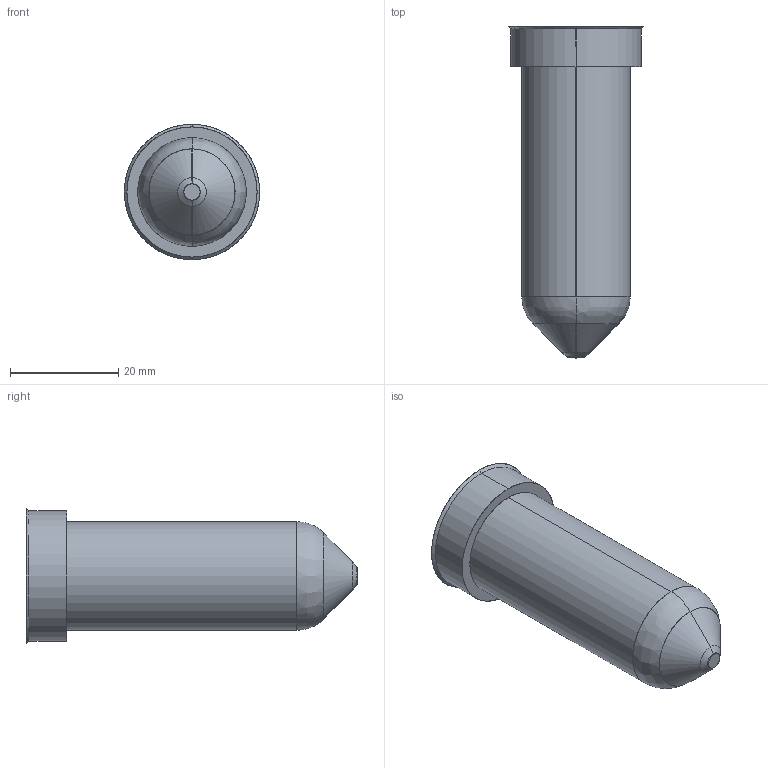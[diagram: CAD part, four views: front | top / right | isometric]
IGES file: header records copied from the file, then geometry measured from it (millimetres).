
Start section: SolidWorks IGES file using analytic representation for surfaces
Global section: file name: C:\Documents and Settings\ws-20\Desktop\TEM\Sede UGGS2530-M-1 C-61 L-93 Ød-3.0.IGS; native system: SolidWorks 2012; preprocessor: SolidWorks 2012; author: ws-20; date: 120516.094410; units: millimetre
Bounding box: 25 x 61.21 x 25 mm (x, y, z)
Surface area: 4476.9 mm2 (no closed solid volume)
Topology: 0 solids, 0 shells, 17 faces, 184 edges, 184 vertices
Faces by surface type: revolution 12, bspline 5
